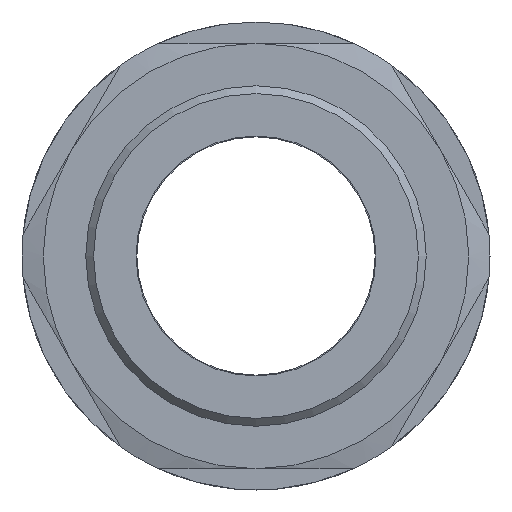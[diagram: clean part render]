
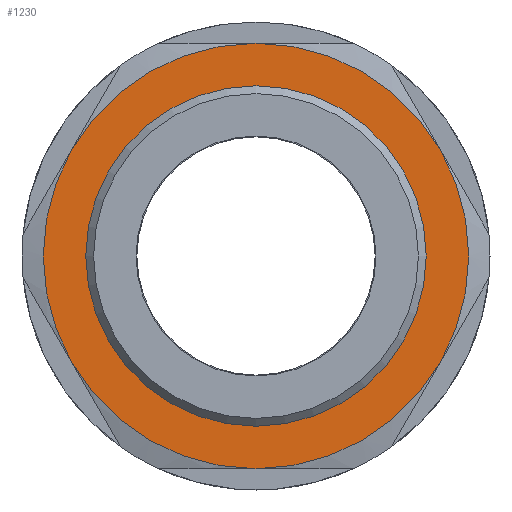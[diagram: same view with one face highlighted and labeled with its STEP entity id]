
A CAD part, front view. The second image highlights one B-rep face of the part: STEP entity #1230.
In plain terms, the highlighted planar face has unit normal (0, -1, 0).
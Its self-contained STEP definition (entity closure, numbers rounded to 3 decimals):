
#29=FACE_BOUND('',#367,.T.);
#221=PLANE('',#1401);
#288=FACE_OUTER_BOUND('',#366,.T.);
#366=EDGE_LOOP('',(#1112,#1113,#1114,#1115,#1116,#1117));
#367=EDGE_LOOP('',(#1118,#1119));
#473=CIRCLE('',#1388,25.);
#474=CIRCLE('',#1390,25.);
#475=CIRCLE('',#1392,25.);
#477=CIRCLE('',#1396,25.);
#478=CIRCLE('',#1398,25.);
#479=CIRCLE('',#1400,25.);
#480=CIRCLE('',#1402,20.);
#481=CIRCLE('',#1403,20.);
#569=VERTEX_POINT('',#3096);
#574=VERTEX_POINT('',#3184);
#579=VERTEX_POINT('',#3271);
#584=VERTEX_POINT('',#3358);
#598=VERTEX_POINT('',#3478);
#600=VERTEX_POINT('',#3568);
#601=VERTEX_POINT('',#3651);
#602=VERTEX_POINT('',#3652);
#769=EDGE_CURVE('',#569,#598,#473,.T.);
#770=EDGE_CURVE('',#574,#569,#474,.T.);
#771=EDGE_CURVE('',#598,#584,#475,.T.);
#774=EDGE_CURVE('',#584,#579,#477,.T.);
#776=EDGE_CURVE('',#579,#600,#478,.T.);
#778=EDGE_CURVE('',#600,#574,#479,.T.);
#779=EDGE_CURVE('',#601,#602,#480,.T.);
#780=EDGE_CURVE('',#602,#601,#481,.T.);
#1112=ORIENTED_EDGE('',*,*,#776,.T.);
#1113=ORIENTED_EDGE('',*,*,#778,.T.);
#1114=ORIENTED_EDGE('',*,*,#770,.T.);
#1115=ORIENTED_EDGE('',*,*,#769,.T.);
#1116=ORIENTED_EDGE('',*,*,#771,.T.);
#1117=ORIENTED_EDGE('',*,*,#774,.T.);
#1118=ORIENTED_EDGE('',*,*,#779,.F.);
#1119=ORIENTED_EDGE('',*,*,#780,.F.);
#1230=ADVANCED_FACE('',(#288,#29),#221,.F.);
#1388=AXIS2_PLACEMENT_3D('',#3528,#1742,#1743);
#1390=AXIS2_PLACEMENT_3D('',#3530,#1746,#1747);
#1392=AXIS2_PLACEMENT_3D('',#3532,#1750,#1751);
#1396=AXIS2_PLACEMENT_3D('',#3566,#1758,#1759);
#1398=AXIS2_PLACEMENT_3D('',#3618,#1762,#1763);
#1400=AXIS2_PLACEMENT_3D('',#3649,#1766,#1767);
#1401=AXIS2_PLACEMENT_3D('',#3650,#1768,#1769);
#1402=AXIS2_PLACEMENT_3D('',#3653,#1770,#1771);
#1403=AXIS2_PLACEMENT_3D('',#3654,#1772,#1773);
#1742=DIRECTION('center_axis',(0.,-1.,0.));
#1743=DIRECTION('ref_axis',(0.,0.,1.));
#1746=DIRECTION('center_axis',(0.,-1.,0.));
#1747=DIRECTION('ref_axis',(0.866,0.,0.5));
#1750=DIRECTION('center_axis',(0.,-1.,0.));
#1751=DIRECTION('ref_axis',(-0.866,0.,0.5));
#1758=DIRECTION('center_axis',(0.,-1.,0.));
#1759=DIRECTION('ref_axis',(-0.866,0.,-0.5));
#1762=DIRECTION('center_axis',(0.,-1.,0.));
#1763=DIRECTION('ref_axis',(0.,0.,-1.));
#1766=DIRECTION('center_axis',(0.,-1.,0.));
#1767=DIRECTION('ref_axis',(0.866,0.,-0.5));
#1768=DIRECTION('center_axis',(0.,1.,0.));
#1769=DIRECTION('ref_axis',(0.,0.,1.));
#1770=DIRECTION('center_axis',(0.,-1.,0.));
#1771=DIRECTION('ref_axis',(0.,0.,-1.));
#1772=DIRECTION('center_axis',(0.,-1.,0.));
#1773=DIRECTION('ref_axis',(0.,0.,-1.));
#3096=CARTESIAN_POINT('',(0.,3.,25.));
#3184=CARTESIAN_POINT('',(21.651,3.,12.5));
#3271=CARTESIAN_POINT('',(0.,3.,-25.));
#3358=CARTESIAN_POINT('',(-21.651,3.,-12.5));
#3478=CARTESIAN_POINT('',(-21.651,3.,12.5));
#3528=CARTESIAN_POINT('Origin',(0.,3.,0.));
#3530=CARTESIAN_POINT('Origin',(0.,3.,0.));
#3532=CARTESIAN_POINT('Origin',(0.,3.,0.));
#3566=CARTESIAN_POINT('Origin',(0.,3.,0.));
#3568=CARTESIAN_POINT('',(21.651,3.,-12.5));
#3618=CARTESIAN_POINT('Origin',(0.,3.,0.));
#3649=CARTESIAN_POINT('Origin',(0.,3.,0.));
#3650=CARTESIAN_POINT('Origin',(25.,3.,0.));
#3651=CARTESIAN_POINT('',(0.,3.,-20.));
#3652=CARTESIAN_POINT('',(0.,3.,20.));
#3653=CARTESIAN_POINT('Origin',(0.,3.,0.));
#3654=CARTESIAN_POINT('Origin',(0.,3.,0.));
